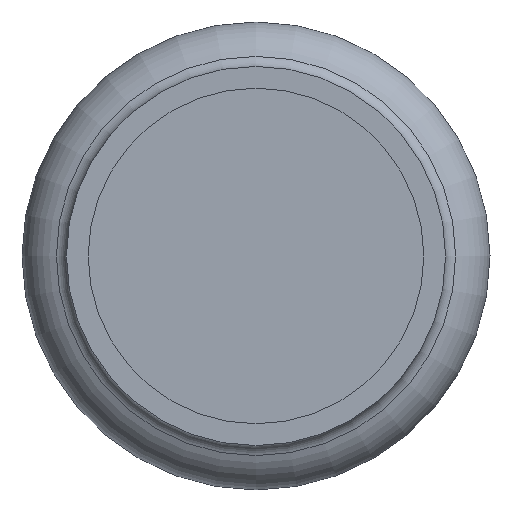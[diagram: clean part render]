
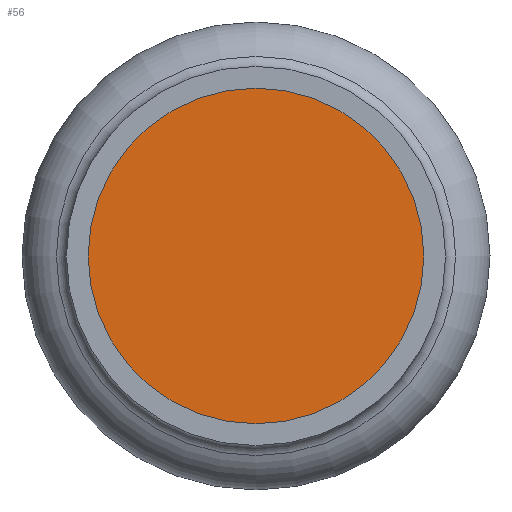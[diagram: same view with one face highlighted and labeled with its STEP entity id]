
A CAD part, front view. The second image highlights one B-rep face of the part: STEP entity #56.
In plain terms, the highlighted planar face has unit normal (0, -1, 0).
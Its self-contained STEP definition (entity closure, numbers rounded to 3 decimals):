
#56=ADVANCED_FACE('',(#97),#99,.T.);
#97=FACE_BOUND('',#98,.T.);
#98=EDGE_LOOP('',(#244));
#99=PLANE('',#100);
#100=AXIS2_PLACEMENT_3D('',#101,#102,#103);
#101=CARTESIAN_POINT('',(0.,-24.529,0.));
#102=DIRECTION('',(0.,-1.,0.));
#103=DIRECTION('',(0.,0.,-1.));
#244=ORIENTED_EDGE('',*,*,#277,.T.);
#277=EDGE_CURVE('',#297,#297,#298,.F.);
#297=VERTEX_POINT('',#339);
#298=CIRCLE('',#340,11.15);
#339=CARTESIAN_POINT('',(0.,-24.529,11.15));
#340=AXIS2_PLACEMENT_3D('',#341,#342,#343);
#341=CARTESIAN_POINT('',(0.,-24.529,0.));
#342=DIRECTION('',(0.,1.,0.));
#343=DIRECTION('',(0.,0.,1.));
